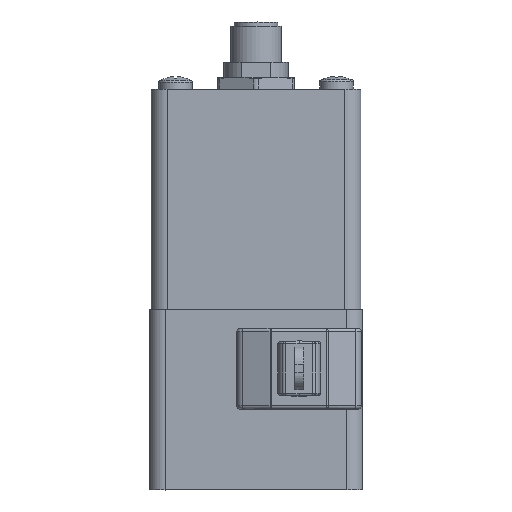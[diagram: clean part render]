
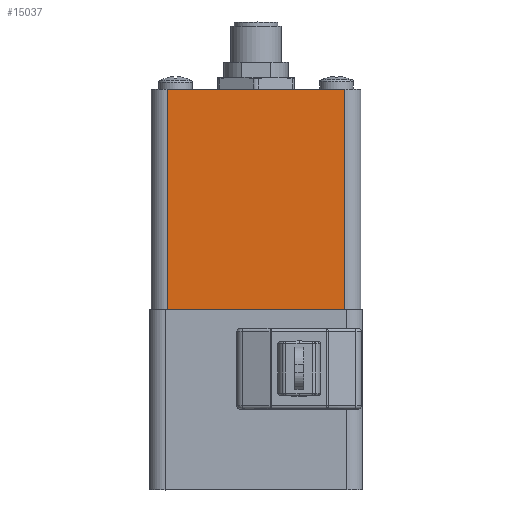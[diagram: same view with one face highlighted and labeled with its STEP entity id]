
A CAD part, top view. The second image highlights one B-rep face of the part: STEP entity #15037.
In plain terms, the highlighted planar face has unit normal (0, 0, 1).
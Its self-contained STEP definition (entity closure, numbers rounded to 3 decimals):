
#12475=CARTESIAN_POINT('',(22.785,69.675,53.155));
#12476=VERTEX_POINT('',#12475);
#12494=CARTESIAN_POINT('',(-19.215,69.675,53.155));
#12495=VERTEX_POINT('',#12494);
#12503=CARTESIAN_POINT('',(22.785,69.675,53.155));
#12504=DIRECTION('',(-1.0,0.0,0.0));
#12505=VECTOR('',#12504,42.0);
#12506=LINE('',#12503,#12505);
#12507=EDGE_CURVE('',#12476,#12495,#12506,.T.);
#15007=CARTESIAN_POINT('',(26.535,66.575,53.155));
#15008=DIRECTION('',(0.0,0.0,1.0));
#15009=DIRECTION('',(0.0,-1.0,0.0));
#15010=AXIS2_PLACEMENT_3D('',#15007,#15008,#15009);
#15011=PLANE('',#15010);
#15012=CARTESIAN_POINT('',(-19.215,17.675,53.155));
#15013=VERTEX_POINT('',#15012);
#15014=CARTESIAN_POINT('',(-19.215,17.675,53.155));
#15015=DIRECTION('',(0.0,1.0,0.0));
#15016=VECTOR('',#15015,52.0);
#15017=LINE('',#15014,#15016);
#15018=EDGE_CURVE('',#15013,#12495,#15017,.T.);
#15019=ORIENTED_EDGE('',*,*,#15018,.F.);
#15020=CARTESIAN_POINT('',(22.785,17.675,53.155));
#15021=VERTEX_POINT('',#15020);
#15022=CARTESIAN_POINT('',(-19.215,17.675,53.155));
#15023=DIRECTION('',(1.0,0.0,0.0));
#15024=VECTOR('',#15023,42.0);
#15025=LINE('',#15022,#15024);
#15026=EDGE_CURVE('',#15013,#15021,#15025,.T.);
#15027=ORIENTED_EDGE('',*,*,#15026,.T.);
#15028=CARTESIAN_POINT('',(22.785,69.675,53.155));
#15029=DIRECTION('',(0.0,-1.0,0.0));
#15030=VECTOR('',#15029,52.0);
#15031=LINE('',#15028,#15030);
#15032=EDGE_CURVE('',#12476,#15021,#15031,.T.);
#15033=ORIENTED_EDGE('',*,*,#15032,.F.);
#15034=ORIENTED_EDGE('',*,*,#12507,.T.);
#15035=EDGE_LOOP('',(#15019,#15027,#15033,#15034));
#15036=FACE_OUTER_BOUND('',#15035,.T.);
#15037=ADVANCED_FACE('',(#15036),#15011,.T.);
